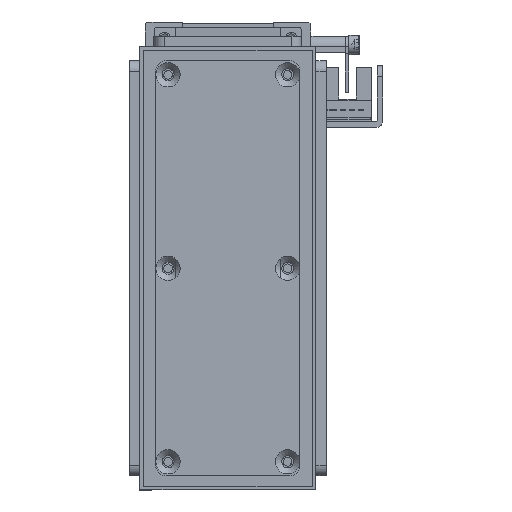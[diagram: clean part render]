
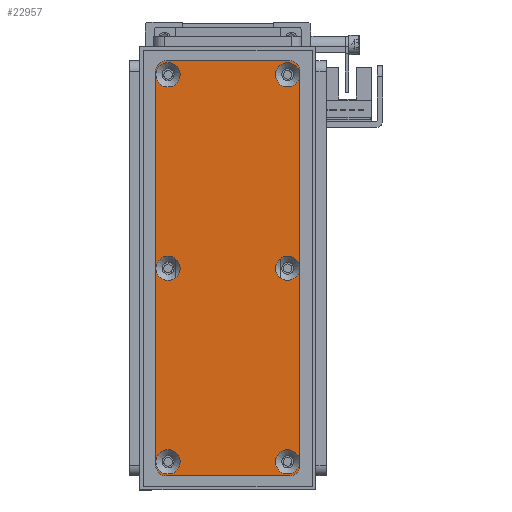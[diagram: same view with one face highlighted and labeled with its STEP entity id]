
A CAD part, front view. The second image highlights one B-rep face of the part: STEP entity #22957.
In plain terms, the highlighted planar face has unit normal (0, -1, 0) as drawn and (0, 0, 1) by its records, which use the part's own axes.
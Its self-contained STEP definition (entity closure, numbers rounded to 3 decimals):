
#765=FACE_BOUND('',#4347,.T.);
#766=FACE_BOUND('',#4348,.T.);
#767=FACE_BOUND('',#4349,.T.);
#768=FACE_BOUND('',#4350,.T.);
#769=FACE_BOUND('',#4351,.T.);
#770=FACE_BOUND('',#4352,.T.);
#1579=PLANE('',#25689);
#2753=FACE_OUTER_BOUND('',#4346,.T.);
#4346=EDGE_LOOP('',(#21117,#21118,#21119,#21120,#21121,#21122,#21123,#21124));
#4347=EDGE_LOOP('',(#21125));
#4348=EDGE_LOOP('',(#21126));
#4349=EDGE_LOOP('',(#21127));
#4350=EDGE_LOOP('',(#21128));
#4351=EDGE_LOOP('',(#21129));
#4352=EDGE_LOOP('',(#21130));
#6459=LINE('',#39961,#8570);
#6463=LINE('',#39973,#8574);
#6467=LINE('',#39985,#8578);
#6471=LINE('',#39995,#8582);
#8570=VECTOR('',#32128,10.);
#8574=VECTOR('',#32140,10.);
#8578=VECTOR('',#32152,10.);
#8582=VECTOR('',#32164,10.);
#9550=CIRCLE('',#25643,3.45);
#9553=CIRCLE('',#25648,3.45);
#9556=CIRCLE('',#25653,3.45);
#9559=CIRCLE('',#25658,3.45);
#9562=CIRCLE('',#25663,3.45);
#9565=CIRCLE('',#25668,3.45);
#9569=CIRCLE('',#25674,3.);
#9571=CIRCLE('',#25678,3.);
#9573=CIRCLE('',#25682,3.);
#9575=CIRCLE('',#25686,3.);
#11646=VERTEX_POINT('',#39889);
#11649=VERTEX_POINT('',#39899);
#11652=VERTEX_POINT('',#39909);
#11655=VERTEX_POINT('',#39919);
#11658=VERTEX_POINT('',#39929);
#11661=VERTEX_POINT('',#39939);
#11666=VERTEX_POINT('',#39952);
#11667=VERTEX_POINT('',#39954);
#11669=VERTEX_POINT('',#39960);
#11671=VERTEX_POINT('',#39966);
#11673=VERTEX_POINT('',#39972);
#11675=VERTEX_POINT('',#39978);
#11677=VERTEX_POINT('',#39984);
#11679=VERTEX_POINT('',#39990);
#14785=EDGE_CURVE('',#11646,#11646,#9550,.T.);
#14790=EDGE_CURVE('',#11649,#11649,#9553,.T.);
#14795=EDGE_CURVE('',#11652,#11652,#9556,.T.);
#14800=EDGE_CURVE('',#11655,#11655,#9559,.T.);
#14805=EDGE_CURVE('',#11658,#11658,#9562,.T.);
#14810=EDGE_CURVE('',#11661,#11661,#9565,.T.);
#14817=EDGE_CURVE('',#11667,#11666,#9569,.T.);
#14820=EDGE_CURVE('',#11669,#11667,#6459,.T.);
#14823=EDGE_CURVE('',#11671,#11669,#9571,.T.);
#14826=EDGE_CURVE('',#11673,#11671,#6463,.T.);
#14829=EDGE_CURVE('',#11675,#11673,#9573,.T.);
#14832=EDGE_CURVE('',#11677,#11675,#6467,.T.);
#14835=EDGE_CURVE('',#11679,#11677,#9575,.T.);
#14838=EDGE_CURVE('',#11666,#11679,#6471,.T.);
#21117=ORIENTED_EDGE('',*,*,#14838,.T.);
#21118=ORIENTED_EDGE('',*,*,#14835,.T.);
#21119=ORIENTED_EDGE('',*,*,#14832,.T.);
#21120=ORIENTED_EDGE('',*,*,#14829,.T.);
#21121=ORIENTED_EDGE('',*,*,#14826,.T.);
#21122=ORIENTED_EDGE('',*,*,#14823,.T.);
#21123=ORIENTED_EDGE('',*,*,#14820,.T.);
#21124=ORIENTED_EDGE('',*,*,#14817,.T.);
#21125=ORIENTED_EDGE('',*,*,#14785,.T.);
#21126=ORIENTED_EDGE('',*,*,#14790,.T.);
#21127=ORIENTED_EDGE('',*,*,#14795,.T.);
#21128=ORIENTED_EDGE('',*,*,#14800,.T.);
#21129=ORIENTED_EDGE('',*,*,#14805,.T.);
#21130=ORIENTED_EDGE('',*,*,#14810,.T.);
#22957=ADVANCED_FACE('',(#2753,#765,#766,#767,#768,#769,#770),#1579,.T.);
#25643=AXIS2_PLACEMENT_3D('',#39890,#32047,#32048);
#25648=AXIS2_PLACEMENT_3D('',#39900,#32059,#32060);
#25653=AXIS2_PLACEMENT_3D('',#39910,#32071,#32072);
#25658=AXIS2_PLACEMENT_3D('',#39920,#32083,#32084);
#25663=AXIS2_PLACEMENT_3D('',#39930,#32095,#32096);
#25668=AXIS2_PLACEMENT_3D('',#39940,#32107,#32108);
#25674=AXIS2_PLACEMENT_3D('',#39955,#32122,#32123);
#25678=AXIS2_PLACEMENT_3D('',#39967,#32134,#32135);
#25682=AXIS2_PLACEMENT_3D('',#39979,#32146,#32147);
#25686=AXIS2_PLACEMENT_3D('',#39991,#32158,#32159);
#25689=AXIS2_PLACEMENT_3D('',#39997,#32167,#32168);
#32047=DIRECTION('center_axis',(0.,0.,-1.));
#32048=DIRECTION('ref_axis',(1.,0.,0.));
#32059=DIRECTION('center_axis',(0.,0.,-1.));
#32060=DIRECTION('ref_axis',(1.,0.,0.));
#32071=DIRECTION('center_axis',(0.,0.,-1.));
#32072=DIRECTION('ref_axis',(1.,0.,0.));
#32083=DIRECTION('center_axis',(0.,0.,-1.));
#32084=DIRECTION('ref_axis',(1.,0.,0.));
#32095=DIRECTION('center_axis',(0.,0.,-1.));
#32096=DIRECTION('ref_axis',(1.,0.,0.));
#32107=DIRECTION('center_axis',(0.,0.,-1.));
#32108=DIRECTION('ref_axis',(1.,0.,0.));
#32122=DIRECTION('center_axis',(0.,0.,1.));
#32123=DIRECTION('ref_axis',(-1.,0.,0.));
#32128=DIRECTION('',(0.,1.,0.));
#32134=DIRECTION('center_axis',(0.,0.,1.));
#32135=DIRECTION('ref_axis',(0.,1.,0.));
#32140=DIRECTION('',(1.,0.,0.));
#32146=DIRECTION('center_axis',(0.,0.,1.));
#32147=DIRECTION('ref_axis',(1.,0.,0.));
#32152=DIRECTION('',(0.,-1.,0.));
#32158=DIRECTION('center_axis',(0.,0.,1.));
#32159=DIRECTION('ref_axis',(0.,-1.,0.));
#32164=DIRECTION('',(-1.,0.,0.));
#32167=DIRECTION('center_axis',(0.,0.,1.));
#32168=DIRECTION('ref_axis',(1.,0.,0.));
#39889=CARTESIAN_POINT('',(110.55,3.5,3.));
#39890=CARTESIAN_POINT('Origin',(114.,3.5,3.));
#39899=CARTESIAN_POINT('',(55.55,37.5,3.));
#39900=CARTESIAN_POINT('Origin',(59.,37.5,3.));
#39909=CARTESIAN_POINT('',(55.55,3.5,3.));
#39910=CARTESIAN_POINT('Origin',(59.,3.5,3.));
#39919=CARTESIAN_POINT('',(0.55,37.5,3.));
#39920=CARTESIAN_POINT('Origin',(4.,37.5,3.));
#39929=CARTESIAN_POINT('',(110.55,37.5,3.));
#39930=CARTESIAN_POINT('Origin',(114.,37.5,3.));
#39939=CARTESIAN_POINT('',(0.55,3.5,3.));
#39940=CARTESIAN_POINT('Origin',(4.,3.5,3.));
#39952=CARTESIAN_POINT('',(115.,41.,3.));
#39954=CARTESIAN_POINT('',(118.,38.,3.));
#39955=CARTESIAN_POINT('Origin',(115.,38.,3.));
#39960=CARTESIAN_POINT('',(118.,3.,3.));
#39961=CARTESIAN_POINT('',(118.,38.,3.));
#39966=CARTESIAN_POINT('',(115.,0.,3.));
#39967=CARTESIAN_POINT('Origin',(115.,3.,3.));
#39972=CARTESIAN_POINT('',(3.,0.,3.));
#39973=CARTESIAN_POINT('',(115.,0.,3.));
#39978=CARTESIAN_POINT('',(0.,3.,3.));
#39979=CARTESIAN_POINT('Origin',(3.,3.,3.));
#39984=CARTESIAN_POINT('',(0.,38.,3.));
#39985=CARTESIAN_POINT('',(0.,3.,3.));
#39990=CARTESIAN_POINT('',(3.,41.,3.));
#39991=CARTESIAN_POINT('Origin',(3.,38.,3.));
#39995=CARTESIAN_POINT('',(3.,41.,3.));
#39997=CARTESIAN_POINT('Origin',(59.,20.5,3.));
